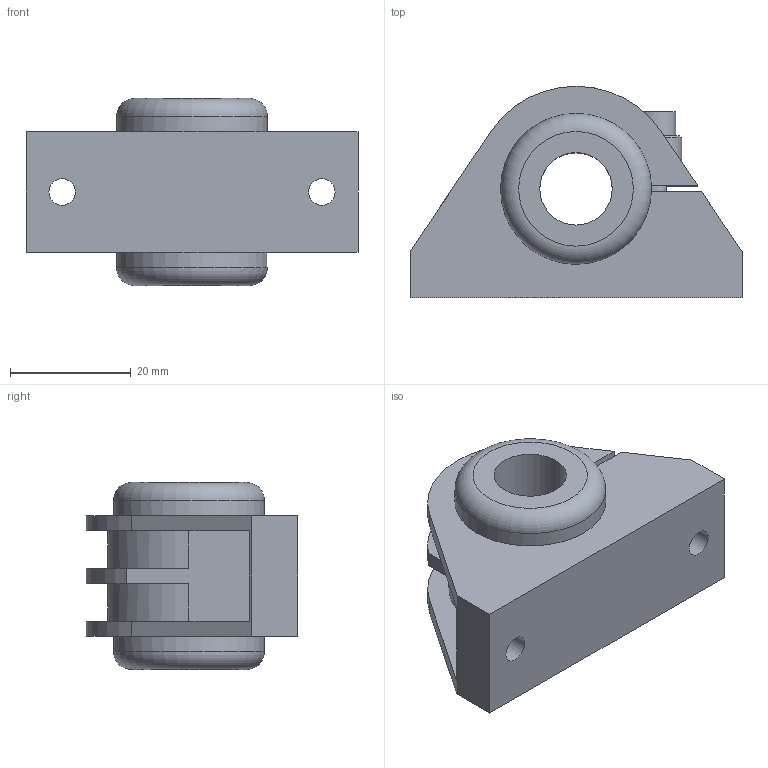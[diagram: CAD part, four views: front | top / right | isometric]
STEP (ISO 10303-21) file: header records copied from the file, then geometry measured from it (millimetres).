
FILE_DESCRIPTION(('STEP AP203'),'1');
FILE_NAME('//192.168.1.1/share/s-4 技術開発/s-4-4_CAD/s-4-4-3_見直し済み/008 修正済み/DLS/DLS_TOP/DLS-12.step','2022-02-18T05:48:55',(' '),(' '),'Spatial InterOp 3D',' ',' ');
FILE_SCHEMA(('CONFIG_CONTROL_DESIGN'));
Length unit declared in the file: millimetre
Products named in the file (1): 1
Bounding box: 55 x 35 x 31 mm (x, y, z)
Volume: 24091.6 mm3; surface area: 9179.4 mm2
Topology: 1 solids, 1 shells, 61 faces, 167 edges, 110 vertices
Faces by surface type: plane 42, cylinder 16, torus 2, cone 1
Full cylindrical faces by diameter (mm): 4 x1, 4.4 x2, 7 x1, 12 x1, 25 x2
Entity records: 1899 total; most frequent: CARTESIAN_POINT 336, DIRECTION 313, ORIENTED_EDGE 304, EDGE_CURVE 152, AXIS2_PLACEMENT_3D 105, VERTEX_POINT 104, LINE 103, VECTOR 103
